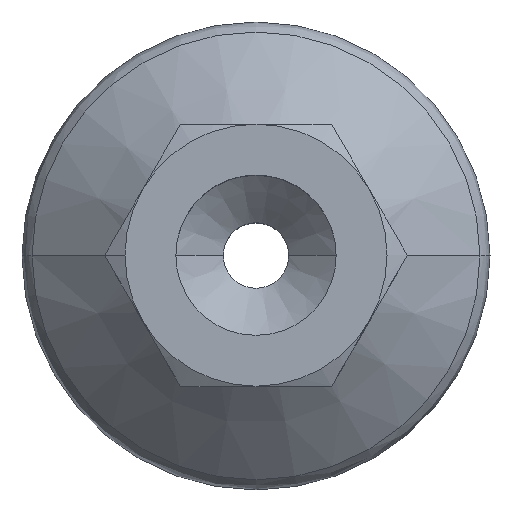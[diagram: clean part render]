
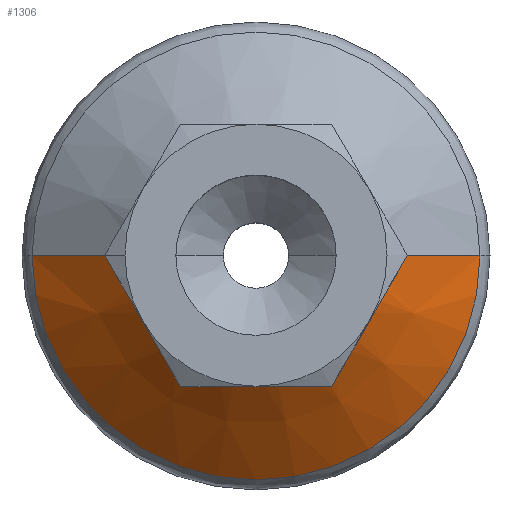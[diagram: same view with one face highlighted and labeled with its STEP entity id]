
A CAD part, top view. The second image highlights one B-rep face of the part: STEP entity #1306.
In plain terms, the highlighted conical face has half-angle 48.407 degrees and reference radius 11.962 mm.
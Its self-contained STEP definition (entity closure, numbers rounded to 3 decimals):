
#43 = FACE_OUTER_BOUND ( 'NONE', #1172, .T. ) ;
#46 = VERTEX_POINT ( 'NONE', #511 ) ;
#49 = ORIENTED_EDGE ( 'NONE', *, *, #496, .T. ) ;
#76 = DIRECTION ( 'NONE',  ( 0., 0., -1. ) ) ;
#83 = CARTESIAN_POINT ( 'NONE',  ( 0., 0., 11.197 ) ) ;
#88 = DIRECTION ( 'NONE',  ( -1., 0., 0. ) ) ;
#110 = ORIENTED_EDGE ( 'NONE', *, *, #733, .T. ) ;
#132 = CIRCLE ( 'NONE', #685, 5.99 ) ;
#333 = CARTESIAN_POINT ( 'NONE',  ( -11.962, 0., 11.197 ) ) ;
#376 = VECTOR ( 'NONE', #662, 1000. ) ;
#452 = EDGE_CURVE ( 'NONE', #46, #915, #132, .T. ) ;
#453 = CONICAL_SURFACE ( 'NONE', #883, 11.962, 0.845 ) ;
#496 = EDGE_CURVE ( 'NONE', #915, #1046, #950, .T. ) ;
#511 = CARTESIAN_POINT ( 'NONE',  ( 5.99, 0., 16.497 ) ) ;
#569 = CARTESIAN_POINT ( 'NONE',  ( 11.962, 0., 11.197 ) ) ;
#662 = DIRECTION ( 'NONE',  ( 0.748, 0., -0.664 ) ) ;
#685 = AXIS2_PLACEMENT_3D ( 'NONE', #1005, #1010, #1026 ) ;
#733 = EDGE_CURVE ( 'NONE', #1046, #1368, #1636, .T. ) ;
#883 = AXIS2_PLACEMENT_3D ( 'NONE', #83, #76, #88 ) ;
#915 = VERTEX_POINT ( 'NONE', #1793 ) ;
#944 = AXIS2_PLACEMENT_3D ( 'NONE', #1483, #1486, #1490 ) ;
#950 = LINE ( 'NONE', #1185, #1212 ) ;
#1005 = CARTESIAN_POINT ( 'NONE',  ( 0., 0., 16.497 ) ) ;
#1010 = DIRECTION ( 'NONE',  ( 0., 0., -1. ) ) ;
#1026 = DIRECTION ( 'NONE',  ( 1., 0., 0. ) ) ;
#1046 = VERTEX_POINT ( 'NONE', #333 ) ;
#1050 = ORIENTED_EDGE ( 'NONE', *, *, #452, .T. ) ;
#1073 = LINE ( 'NONE', #569, #376 ) ;
#1172 = EDGE_LOOP ( 'NONE', ( #1205, #1050, #49, #110 ) ) ;
#1180 = DIRECTION ( 'NONE',  ( -0.748, 0., -0.664 ) ) ;
#1185 = CARTESIAN_POINT ( 'NONE',  ( -11.962, 0., 11.197 ) ) ;
#1205 = ORIENTED_EDGE ( 'NONE', *, *, #1760, .F. ) ;
#1212 = VECTOR ( 'NONE', #1180, 1000. ) ;
#1303 = CARTESIAN_POINT ( 'NONE',  ( 11.962, 0., 11.197 ) ) ;
#1306 = ADVANCED_FACE ( 'NONE', ( #43 ), #453, .T. ) ;
#1368 = VERTEX_POINT ( 'NONE', #1303 ) ;
#1483 = CARTESIAN_POINT ( 'NONE',  ( 0., 0., 11.197 ) ) ;
#1486 = DIRECTION ( 'NONE',  ( 0., 0., 1. ) ) ;
#1490 = DIRECTION ( 'NONE',  ( 1., 0., 0. ) ) ;
#1636 = CIRCLE ( 'NONE', #944, 11.962 ) ;
#1760 = EDGE_CURVE ( 'NONE', #46, #1368, #1073, .T. ) ;
#1793 = CARTESIAN_POINT ( 'NONE',  ( -5.99, 0., 16.497 ) ) ;
